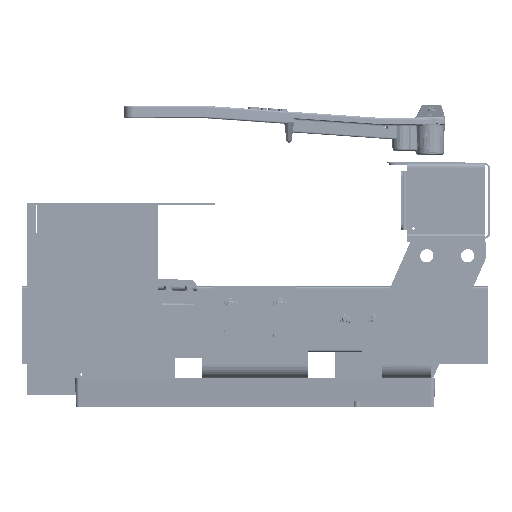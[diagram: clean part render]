
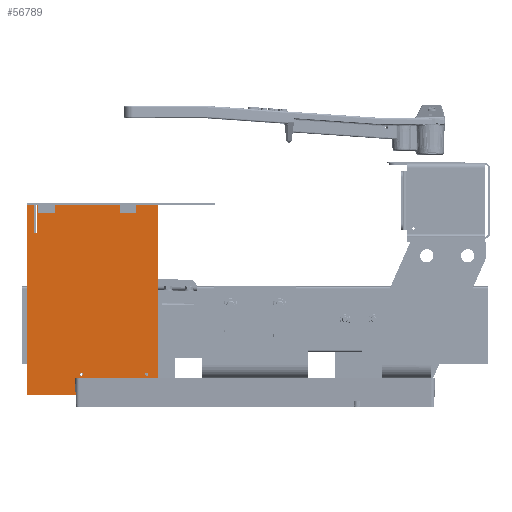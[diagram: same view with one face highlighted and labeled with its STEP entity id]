
A CAD part, left-side view. The second image highlights one B-rep face of the part: STEP entity #56789.
In plain terms, the highlighted planar face has unit normal (-1, 0, 0) as drawn and (0, 0, -1) by its records, which use the part's own axes.
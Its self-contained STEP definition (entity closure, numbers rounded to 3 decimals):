
#3362=FACE_BOUND('',#12947,.T.);
#3363=FACE_BOUND('',#12948,.T.);
#3364=FACE_BOUND('',#12949,.T.);
#3365=FACE_BOUND('',#12950,.T.);
#5353=CIRCLE('',#62917,0.097);
#5355=CIRCLE('',#62920,0.097);
#5357=CIRCLE('',#62923,0.097);
#5359=CIRCLE('',#62926,0.097);
#9182=FACE_OUTER_BOUND('',#12946,.T.);
#12946=EDGE_LOOP('',(#48793,#48794,#48795,#48796,#48797,#48798,#48799,#48800,
#48801,#48802,#48803,#48804));
#12947=EDGE_LOOP('',(#48805));
#12948=EDGE_LOOP('',(#48806));
#12949=EDGE_LOOP('',(#48807));
#12950=EDGE_LOOP('',(#48808));
#17614=LINE('',#99217,#22274);
#17618=LINE('',#99225,#22278);
#17621=LINE('',#99231,#22281);
#17624=LINE('',#99237,#22284);
#17627=LINE('',#99243,#22287);
#17630=LINE('',#99249,#22290);
#17633=LINE('',#99255,#22293);
#17636=LINE('',#99261,#22296);
#17639=LINE('',#99267,#22299);
#17642=LINE('',#99273,#22302);
#17645=LINE('',#99279,#22305);
#17648=LINE('',#99284,#22308);
#22274=VECTOR('',#76512,0.394);
#22278=VECTOR('',#76518,0.394);
#22281=VECTOR('',#76523,0.394);
#22284=VECTOR('',#76528,0.394);
#22287=VECTOR('',#76533,0.394);
#22290=VECTOR('',#76538,0.394);
#22293=VECTOR('',#76543,0.394);
#22296=VECTOR('',#76548,0.394);
#22299=VECTOR('',#76553,0.394);
#22302=VECTOR('',#76558,0.394);
#22305=VECTOR('',#76563,0.394);
#22308=VECTOR('',#76568,0.394);
#27224=VERTEX_POINT('',#99191);
#27226=VERTEX_POINT('',#99197);
#27228=VERTEX_POINT('',#99203);
#27230=VERTEX_POINT('',#99209);
#27232=VERTEX_POINT('',#99215);
#27233=VERTEX_POINT('',#99216);
#27236=VERTEX_POINT('',#99224);
#27238=VERTEX_POINT('',#99230);
#27240=VERTEX_POINT('',#99236);
#27242=VERTEX_POINT('',#99242);
#27244=VERTEX_POINT('',#99248);
#27246=VERTEX_POINT('',#99254);
#27248=VERTEX_POINT('',#99260);
#27250=VERTEX_POINT('',#99266);
#27252=VERTEX_POINT('',#99272);
#27254=VERTEX_POINT('',#99278);
#34571=EDGE_CURVE('',#27224,#27224,#5353,.T.);
#34574=EDGE_CURVE('',#27226,#27226,#5355,.T.);
#34577=EDGE_CURVE('',#27228,#27228,#5357,.T.);
#34580=EDGE_CURVE('',#27230,#27230,#5359,.T.);
#34583=EDGE_CURVE('',#27232,#27233,#17614,.T.);
#34587=EDGE_CURVE('',#27236,#27232,#17618,.T.);
#34590=EDGE_CURVE('',#27238,#27236,#17621,.T.);
#34593=EDGE_CURVE('',#27240,#27238,#17624,.T.);
#34596=EDGE_CURVE('',#27242,#27240,#17627,.T.);
#34599=EDGE_CURVE('',#27244,#27242,#17630,.T.);
#34602=EDGE_CURVE('',#27246,#27244,#17633,.T.);
#34605=EDGE_CURVE('',#27248,#27246,#17636,.T.);
#34608=EDGE_CURVE('',#27250,#27248,#17639,.T.);
#34611=EDGE_CURVE('',#27252,#27250,#17642,.T.);
#34614=EDGE_CURVE('',#27254,#27252,#17645,.T.);
#34617=EDGE_CURVE('',#27233,#27254,#17648,.T.);
#48793=ORIENTED_EDGE('',*,*,#34617,.F.);
#48794=ORIENTED_EDGE('',*,*,#34583,.F.);
#48795=ORIENTED_EDGE('',*,*,#34587,.F.);
#48796=ORIENTED_EDGE('',*,*,#34590,.F.);
#48797=ORIENTED_EDGE('',*,*,#34593,.F.);
#48798=ORIENTED_EDGE('',*,*,#34596,.F.);
#48799=ORIENTED_EDGE('',*,*,#34599,.F.);
#48800=ORIENTED_EDGE('',*,*,#34602,.F.);
#48801=ORIENTED_EDGE('',*,*,#34605,.F.);
#48802=ORIENTED_EDGE('',*,*,#34608,.F.);
#48803=ORIENTED_EDGE('',*,*,#34611,.F.);
#48804=ORIENTED_EDGE('',*,*,#34614,.F.);
#48805=ORIENTED_EDGE('',*,*,#34571,.T.);
#48806=ORIENTED_EDGE('',*,*,#34574,.T.);
#48807=ORIENTED_EDGE('',*,*,#34577,.T.);
#48808=ORIENTED_EDGE('',*,*,#34580,.T.);
#54070=PLANE('',#62941);
#56789=ADVANCED_FACE('',(#9182,#3362,#3363,#3364,#3365),#54070,.F.);
#62917=AXIS2_PLACEMENT_3D('',#99192,#76484,#76485);
#62920=AXIS2_PLACEMENT_3D('',#99198,#76491,#76492);
#62923=AXIS2_PLACEMENT_3D('',#99204,#76498,#76499);
#62926=AXIS2_PLACEMENT_3D('',#99210,#76505,#76506);
#62941=AXIS2_PLACEMENT_3D('',#99287,#76572,#76573);
#76484=DIRECTION('center_axis',(0.,0.,1.));
#76485=DIRECTION('ref_axis',(-1.,0.,0.));
#76491=DIRECTION('center_axis',(0.,0.,1.));
#76492=DIRECTION('ref_axis',(-1.,0.,0.));
#76498=DIRECTION('center_axis',(0.,0.,1.));
#76499=DIRECTION('ref_axis',(-1.,0.,0.));
#76505=DIRECTION('center_axis',(0.,0.,1.));
#76506=DIRECTION('ref_axis',(-1.,0.,0.));
#76512=DIRECTION('',(1.,0.,0.));
#76518=DIRECTION('',(0.,1.,0.));
#76523=DIRECTION('',(1.,0.,0.));
#76528=DIRECTION('',(0.,-1.,0.));
#76533=DIRECTION('',(-1.,0.,0.));
#76538=DIRECTION('',(0.,-1.,0.));
#76543=DIRECTION('',(1.,0.,0.));
#76548=DIRECTION('',(0.,-1.,0.));
#76553=DIRECTION('',(-1.,0.,0.));
#76558=DIRECTION('',(0.,1.,0.));
#76563=DIRECTION('',(1.,0.,0.));
#76568=DIRECTION('',(0.,-1.,0.));
#76572=DIRECTION('center_axis',(0.,0.,1.));
#76573=DIRECTION('ref_axis',(1.,0.,0.));
#99191=CARTESIAN_POINT('',(0.347,2.,0.));
#99192=CARTESIAN_POINT('Origin',(0.25,2.,0.));
#99197=CARTESIAN_POINT('',(0.347,7.,0.));
#99198=CARTESIAN_POINT('Origin',(0.25,7.,0.));
#99203=CARTESIAN_POINT('',(10.472,0.688,0.));
#99204=CARTESIAN_POINT('Origin',(10.375,0.688,0.));
#99209=CARTESIAN_POINT('',(10.472,4.688,0.));
#99210=CARTESIAN_POINT('Origin',(10.375,4.688,0.));
#99215=CARTESIAN_POINT('',(10.625,5.094,0.));
#99216=CARTESIAN_POINT('',(11.156,5.094,0.));
#99217=CARTESIAN_POINT('',(10.625,5.094,0.));
#99224=CARTESIAN_POINT('',(10.625,0.,0.));
#99225=CARTESIAN_POINT('',(10.625,0.,0.));
#99230=CARTESIAN_POINT('',(0.,0.,0.));
#99231=CARTESIAN_POINT('',(0.,0.,0.));
#99236=CARTESIAN_POINT('',(0.,7.422,0.));
#99237=CARTESIAN_POINT('',(0.,7.422,0.));
#99242=CARTESIAN_POINT('',(1.75,7.422,0.));
#99243=CARTESIAN_POINT('',(1.75,7.422,0.));
#99248=CARTESIAN_POINT('',(1.75,7.578,0.));
#99249=CARTESIAN_POINT('',(1.75,7.578,0.));
#99254=CARTESIAN_POINT('',(0.,7.578,0.));
#99255=CARTESIAN_POINT('',(0.,7.578,0.));
#99260=CARTESIAN_POINT('',(0.,8.,0.));
#99261=CARTESIAN_POINT('',(0.,8.,0.));
#99266=CARTESIAN_POINT('',(11.625,8.,0.));
#99267=CARTESIAN_POINT('',(11.625,8.,0.));
#99272=CARTESIAN_POINT('',(11.625,4.719,0.));
#99273=CARTESIAN_POINT('',(11.625,4.719,0.));
#99278=CARTESIAN_POINT('',(11.156,4.719,0.));
#99279=CARTESIAN_POINT('',(11.156,4.719,0.));
#99284=CARTESIAN_POINT('',(11.156,5.094,0.));
#99287=CARTESIAN_POINT('Origin',(5.401,4.41,0.));
